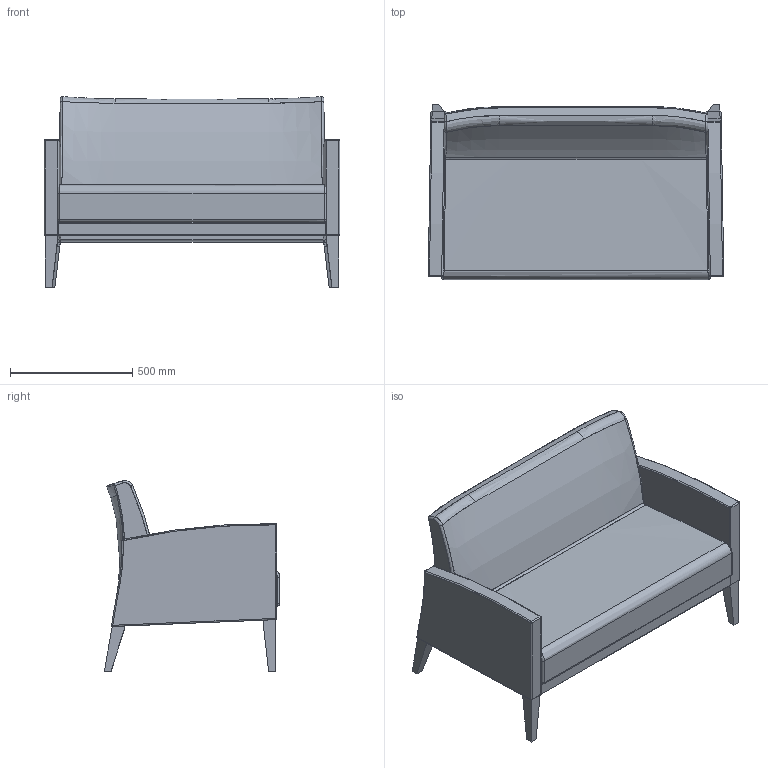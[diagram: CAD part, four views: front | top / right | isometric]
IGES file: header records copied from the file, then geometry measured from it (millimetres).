
Start section: SolidWorks IGES file using analytic representation for surfaces
Global section: file name: C:\Users\Adao.JMS\Documents\Trab Adao\Desenho técnico PRODUÇÃO\J M S\CASSIS\POLTRONAS\M282, M283D, M285, M286D\Poltrona 3D\Poltrona Cassis M-283 D (3D).IGS; native system: SolidWorks 2014; preprocessor: SolidWorks 2014; author: adao; date: 140901.153409; units: millimetre
Bounding box: 1210.05 x 718.34 x 781.4 mm (x, y, z)
Surface area: 4428679.7 mm2 (no closed solid volume)
Topology: 0 solids, 0 shells, 182 faces, 1511 edges, 1497 vertices
Faces by surface type: bspline 100, revolution 82
